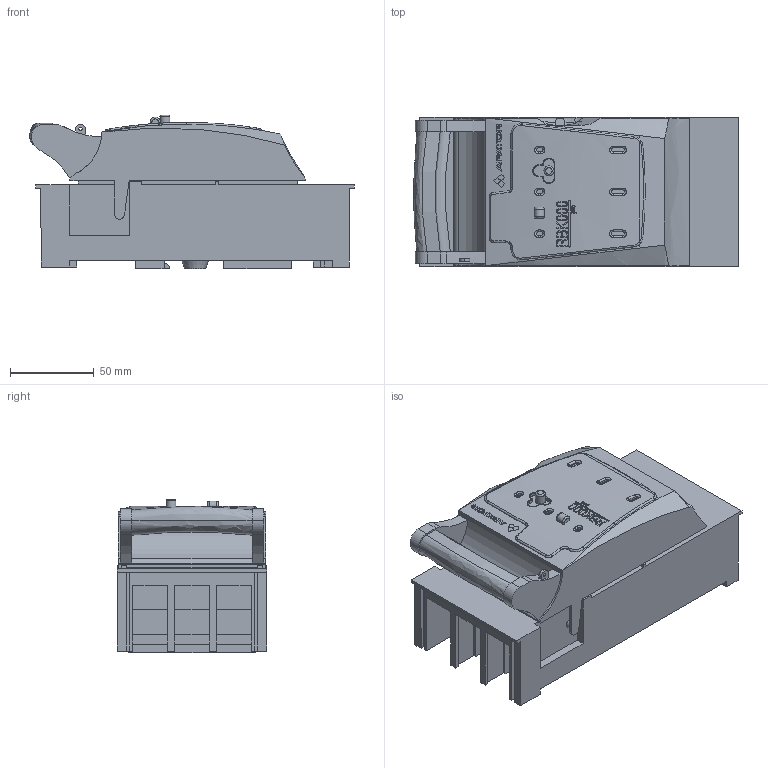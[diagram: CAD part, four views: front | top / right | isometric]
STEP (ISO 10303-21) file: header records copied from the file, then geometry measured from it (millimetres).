
FILE_DESCRIPTION(/* description */ (''),/* implementation_level */ '2;1');
FILE_NAME(/* name */ 'RBK 000 pro-W - 63-823191-071.stp',/* time_stamp */ '2019-03-05T12:09:14+01:00',/* author */ (''),/* organization */ (''),/* preprocessor_version */ 'ST-DEVELOPER v16',/* originating_system */ 'SIEMENS PLM Software NX 10.0',/* authorisation */ '');
FILE_SCHEMA (('AUTOMOTIVE_DESIGN { 1 0 10303 214 3 1 1 1 }'));
Products named in the file (1): 710_1A04BEC5vzpd
Bounding box: 193.71 x 89 x 91.5 mm (x, y, z)
Volume: 897200.4 mm3; surface area: 129237.5 mm2
Topology: 1 solids, 1 shells, 1394 faces, 3946 edges, 2608 vertices
Faces by surface type: plane 1116, cylinder 105, extrusion 99, bspline 54, torus 18, cone 2
Full cylindrical faces by diameter (mm): 2 x1, 5.8 x2, 5.86 x1, 6.5 x2, 8.5 x6
Entity records: 61363 total; most frequent: CARTESIAN_POINT 17166, ORIENTED_EDGE 7850, DIRECTION 6492, EDGE_CURVE 3925, VERTEX_POINT 2604, VECTOR 2284, LINE 2185, AXIS2_PLACEMENT_3D 2104
